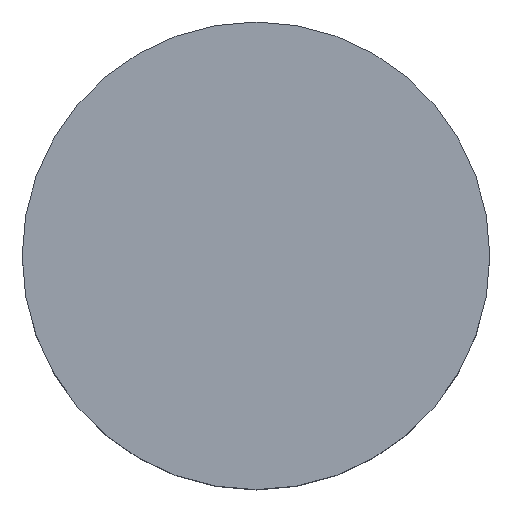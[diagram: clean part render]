
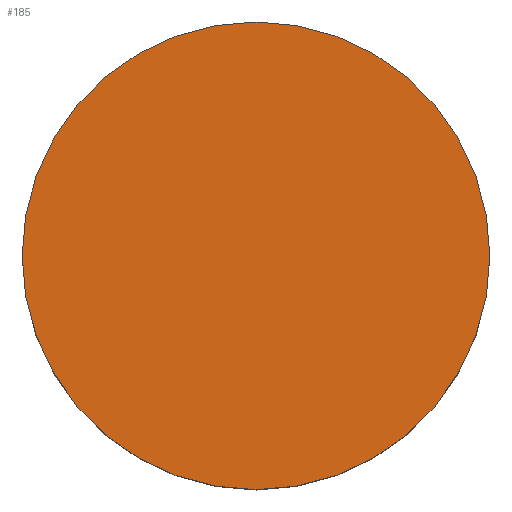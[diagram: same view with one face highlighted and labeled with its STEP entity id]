
A CAD part, top view. The second image highlights one B-rep face of the part: STEP entity #185.
In plain terms, the highlighted planar face has unit normal (0, 0, 1).
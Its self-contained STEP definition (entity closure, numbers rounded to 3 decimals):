
#185=ADVANCED_FACE('',(#233),#222,.T.);
#222=PLANE('',#622);
#233=FACE_OUTER_BOUND('',#261,.T.);
#261=EDGE_LOOP('',(#307,#308));
#307=ORIENTED_EDGE('',*,*,#497,.F.);
#308=ORIENTED_EDGE('',*,*,#498,.F.);
#451=VERTEX_POINT('',#907);
#452=VERTEX_POINT('',#908);
#497=EDGE_CURVE('',#451,#452,#569,.T.);
#498=EDGE_CURVE('',#452,#451,#570,.T.);
#569=CIRCLE('',#620,6.5);
#570=CIRCLE('',#621,6.5);
#620=AXIS2_PLACEMENT_3D('',#906,#709,#710);
#621=AXIS2_PLACEMENT_3D('',#909,#711,#712);
#622=AXIS2_PLACEMENT_3D('',#910,#713,#714);
#709=DIRECTION('',(0.,0.,-1.));
#710=DIRECTION('',(0.,1.,0.));
#711=DIRECTION('',(0.,0.,-1.));
#712=DIRECTION('',(0.,-1.,0.));
#713=DIRECTION('',(0.,0.,1.));
#714=DIRECTION('',(0.,-1.,0.));
#906=CARTESIAN_POINT('',(0.,0.,5.));
#907=CARTESIAN_POINT('',(6.5,0.,5.));
#908=CARTESIAN_POINT('',(-6.5,0.,5.));
#909=CARTESIAN_POINT('',(0.,0.,5.));
#910=CARTESIAN_POINT('',(0.,0.,5.));
